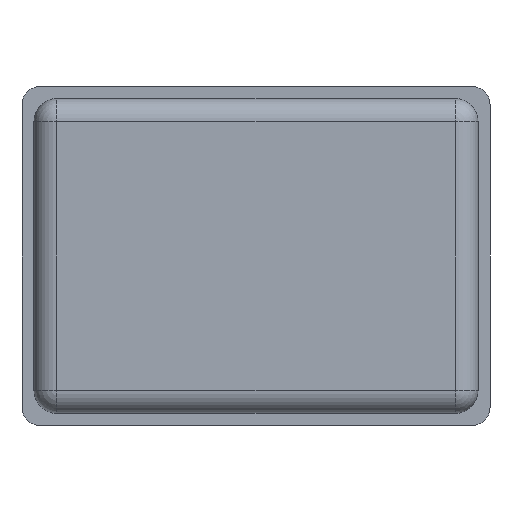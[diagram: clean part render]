
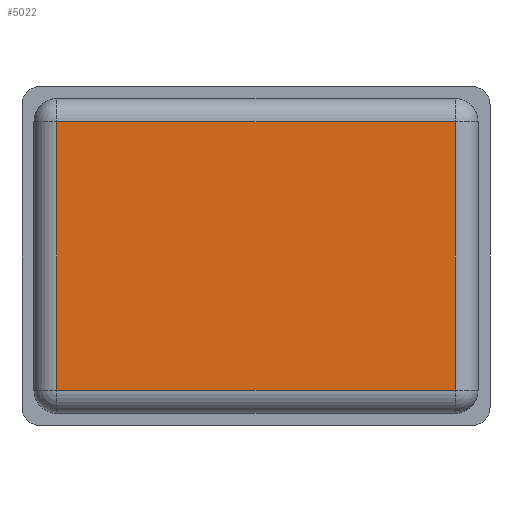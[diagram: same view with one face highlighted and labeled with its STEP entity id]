
A CAD part, front view. The second image highlights one B-rep face of the part: STEP entity #5022.
In plain terms, the highlighted planar face has unit normal (0, -1, 0).
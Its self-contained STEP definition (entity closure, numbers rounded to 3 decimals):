
#36 = FACE_OUTER_BOUND ( 'NONE', #3637, .T. ) ;
#82 = VECTOR ( 'NONE', #1473, 1000. ) ;
#130 = LINE ( 'NONE', #6567, #6240 ) ;
#266 = CARTESIAN_POINT ( 'NONE',  ( -21.7, -17.4, -14.65 ) ) ;
#536 = EDGE_CURVE ( 'NONE', #7260, #6642, #7406, .T. ) ;
#553 = CARTESIAN_POINT ( 'NONE',  ( -21.7, -17.4, -14.65 ) ) ;
#610 = DIRECTION ( 'NONE',  ( -1., 0., 0. ) ) ;
#869 = PLANE ( 'NONE',  #5958 ) ;
#1046 = EDGE_CURVE ( 'NONE', #6642, #2200, #6540, .T. ) ;
#1126 = CARTESIAN_POINT ( 'NONE',  ( 21.7, -17.4, -14.65 ) ) ;
#1282 = DIRECTION ( 'NONE',  ( 0., 0., 1. ) ) ;
#1473 = DIRECTION ( 'NONE',  ( 0., 0., -1. ) ) ;
#1475 = DIRECTION ( 'NONE',  ( 0., 0., 1. ) ) ;
#2175 = VECTOR ( 'NONE', #7271, 1000. ) ;
#2200 = VERTEX_POINT ( 'NONE', #1126 ) ;
#2343 = CARTESIAN_POINT ( 'NONE',  ( 21.7, -17.4, 14.65 ) ) ;
#2610 = VECTOR ( 'NONE', #610, 1000. ) ;
#2666 = ORIENTED_EDGE ( 'NONE', *, *, #3234, .T. ) ;
#2924 = CARTESIAN_POINT ( 'NONE',  ( -21.7, -17.4, 14.65 ) ) ;
#3234 = EDGE_CURVE ( 'NONE', #6094, #7260, #5570, .T. ) ;
#3323 = ORIENTED_EDGE ( 'NONE', *, *, #4310, .T. ) ;
#3637 = EDGE_LOOP ( 'NONE', ( #6533, #3323, #2666, #3793 ) ) ;
#3793 = ORIENTED_EDGE ( 'NONE', *, *, #536, .T. ) ;
#3810 = CARTESIAN_POINT ( 'NONE',  ( 0., -17.4, 0. ) ) ;
#4310 = EDGE_CURVE ( 'NONE', #2200, #6094, #130, .T. ) ;
#4677 = CARTESIAN_POINT ( 'NONE',  ( 21.7, -17.4, -14.65 ) ) ;
#5022 = ADVANCED_FACE ( 'NONE', ( #36 ), #869, .F. ) ;
#5340 = CARTESIAN_POINT ( 'NONE',  ( -21.7, -17.4, 14.65 ) ) ;
#5570 = LINE ( 'NONE', #5340, #2610 ) ;
#5958 = AXIS2_PLACEMENT_3D ( 'NONE', #3810, #7383, #1475 ) ;
#6094 = VERTEX_POINT ( 'NONE', #2343 ) ;
#6240 = VECTOR ( 'NONE', #1282, 1000. ) ;
#6533 = ORIENTED_EDGE ( 'NONE', *, *, #1046, .T. ) ;
#6540 = LINE ( 'NONE', #4677, #2175 ) ;
#6567 = CARTESIAN_POINT ( 'NONE',  ( 21.7, -17.4, 14.65 ) ) ;
#6642 = VERTEX_POINT ( 'NONE', #553 ) ;
#7260 = VERTEX_POINT ( 'NONE', #2924 ) ;
#7271 = DIRECTION ( 'NONE',  ( 1., 0., 0. ) ) ;
#7383 = DIRECTION ( 'NONE',  ( 0., 1., 0. ) ) ;
#7406 = LINE ( 'NONE', #266, #82 ) ;
